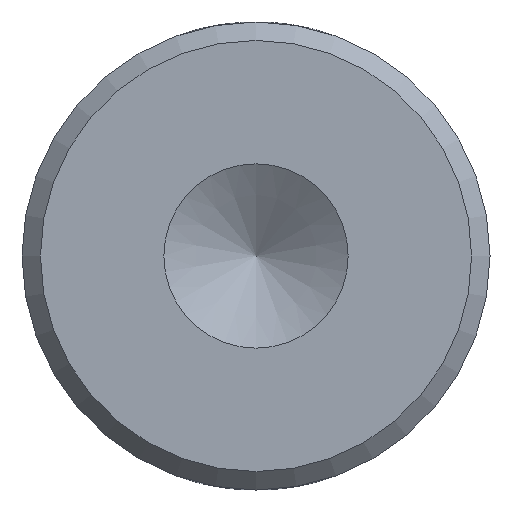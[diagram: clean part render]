
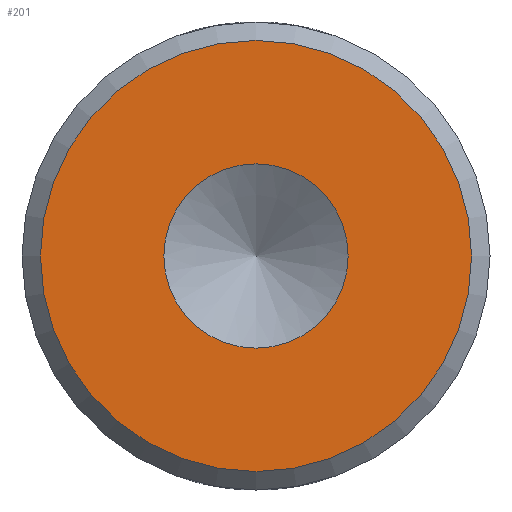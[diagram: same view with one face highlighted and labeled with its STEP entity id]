
A CAD part, front view. The second image highlights one B-rep face of the part: STEP entity #201.
In plain terms, the highlighted planar face has unit normal (0, -1, 0).
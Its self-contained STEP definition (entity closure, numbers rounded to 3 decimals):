
#4 = EDGE_CURVE ( 'NONE', #225, #225, #296, .T. ) ;
#32 = CARTESIAN_POINT ( 'NONE',  ( 0., 0., 5.85 ) ) ;
#41 = DIRECTION ( 'NONE',  ( 0., 0., 1. ) ) ;
#42 = DIRECTION ( 'NONE',  ( 0., -1., 0. ) ) ;
#44 = CARTESIAN_POINT ( 'NONE',  ( 0., 0., 0. ) ) ;
#131 = CARTESIAN_POINT ( 'NONE',  ( 0., 0., -2.5 ) ) ;
#161 = AXIS2_PLACEMENT_3D ( 'NONE', #363, #374, #372 ) ;
#164 = AXIS2_PLACEMENT_3D ( 'NONE', #375, #465, #464 ) ;
#179 = AXIS2_PLACEMENT_3D ( 'NONE', #44, #42, #41 ) ;
#201 = ADVANCED_FACE ( 'NONE', ( #297, #295 ), #467, .F. ) ;
#225 = VERTEX_POINT ( 'NONE', #131 ) ;
#243 = ORIENTED_EDGE ( 'NONE', *, *, #4, .F. ) ;
#263 = VERTEX_POINT ( 'NONE', #32 ) ;
#264 = CIRCLE ( 'NONE', #179, 5.85 ) ;
#295 = FACE_BOUND ( 'NONE', #304, .T. ) ;
#296 = CIRCLE ( 'NONE', #161, 2.5 ) ;
#297 = FACE_OUTER_BOUND ( 'NONE', #302, .T. ) ;
#302 = EDGE_LOOP ( 'NONE', ( #344 ) ) ;
#304 = EDGE_LOOP ( 'NONE', ( #243 ) ) ;
#344 = ORIENTED_EDGE ( 'NONE', *, *, #362, .T. ) ;
#362 = EDGE_CURVE ( 'NONE', #263, #263, #264, .T. ) ;
#363 = CARTESIAN_POINT ( 'NONE',  ( 0., 0., 0. ) ) ;
#372 = DIRECTION ( 'NONE',  ( 0., 0., -1. ) ) ;
#374 = DIRECTION ( 'NONE',  ( 0., -1., 0. ) ) ;
#375 = CARTESIAN_POINT ( 'NONE',  ( 0., 0., 0. ) ) ;
#464 = DIRECTION ( 'NONE',  ( 0., 0., 1. ) ) ;
#465 = DIRECTION ( 'NONE',  ( 0., 1., 0. ) ) ;
#467 = PLANE ( 'NONE',  #164 ) ;
